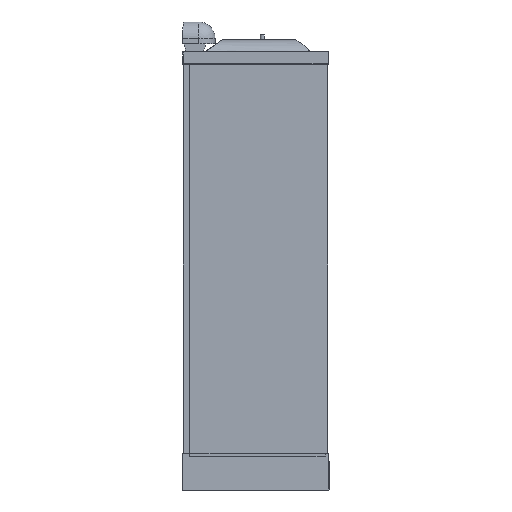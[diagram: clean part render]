
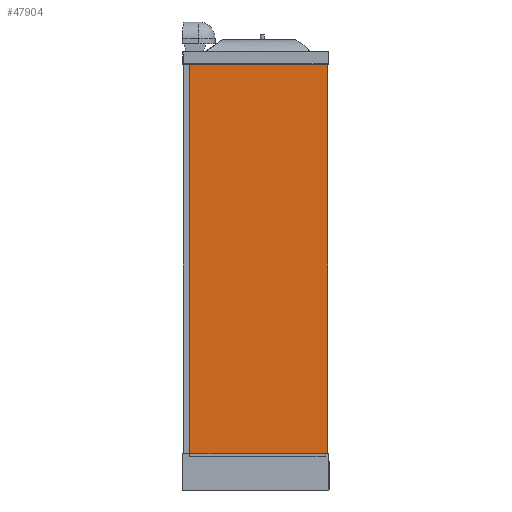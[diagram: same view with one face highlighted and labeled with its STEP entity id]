
A CAD part, left-side view. The second image highlights one B-rep face of the part: STEP entity #47904.
In plain terms, the highlighted planar face has unit normal (-1, 0, 0).
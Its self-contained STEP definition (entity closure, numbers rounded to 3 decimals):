
#47685=CARTESIAN_POINT('',(4.296,-31.426,2063.06));
#47686=VERTEX_POINT('',#47685);
#47693=CARTESIAN_POINT('',(4.296,-686.417,2063.06));
#47694=VERTEX_POINT('',#47693);
#47695=CARTESIAN_POINT('',(4.296,-31.426,2063.06));
#47696=DIRECTION('',(0.0,-1.0,0.0));
#47697=VECTOR('',#47696,654.991);
#47698=LINE('',#47695,#47697);
#47699=EDGE_CURVE('',#47686,#47694,#47698,.T.);
#47817=CARTESIAN_POINT('',(4.296,-686.417,163.06));
#47818=VERTEX_POINT('',#47817);
#47825=CARTESIAN_POINT('',(4.296,-31.426,163.06));
#47826=VERTEX_POINT('',#47825);
#47827=CARTESIAN_POINT('',(4.296,-31.426,163.06));
#47828=DIRECTION('',(0.0,-1.0,0.0));
#47829=VECTOR('',#47828,654.991);
#47830=LINE('',#47827,#47829);
#47831=EDGE_CURVE('',#47826,#47818,#47830,.T.);
#47851=CARTESIAN_POINT('',(4.296,-700.541,162.936));
#47852=DIRECTION('',(1.0,0.0,0.0));
#47853=DIRECTION('',(0.0,1.0,0.0));
#47854=AXIS2_PLACEMENT_3D('',#47851,#47852,#47853);
#47855=PLANE('',#47854);
#47856=ORIENTED_EDGE('',*,*,#47831,.T.);
#47857=CARTESIAN_POINT('',(4.296,-686.417,176.057));
#47858=VERTEX_POINT('',#47857);
#47859=CARTESIAN_POINT('',(4.296,-686.417,163.06));
#47860=DIRECTION('',(0.0,0.0,1.0));
#47861=VECTOR('',#47860,12.998);
#47862=LINE('',#47859,#47861);
#47863=EDGE_CURVE('',#47818,#47858,#47862,.T.);
#47864=ORIENTED_EDGE('',*,*,#47863,.T.);
#47865=CARTESIAN_POINT('',(4.296,-700.417,176.057));
#47866=VERTEX_POINT('',#47865);
#47867=CARTESIAN_POINT('',(4.296,-700.417,176.057));
#47868=DIRECTION('',(0.0,1.0,0.0));
#47869=VECTOR('',#47868,14.);
#47870=LINE('',#47867,#47869);
#47871=EDGE_CURVE('',#47866,#47858,#47870,.T.);
#47872=ORIENTED_EDGE('',*,*,#47871,.F.);
#47873=CARTESIAN_POINT('',(4.296,-700.417,2050.057));
#47874=VERTEX_POINT('',#47873);
#47875=CARTESIAN_POINT('',(4.296,-700.417,2050.057));
#47876=DIRECTION('',(0.0,0.0,-1.0));
#47877=VECTOR('',#47876,1874.0);
#47878=LINE('',#47875,#47877);
#47879=EDGE_CURVE('',#47874,#47866,#47878,.T.);
#47880=ORIENTED_EDGE('',*,*,#47879,.F.);
#47881=CARTESIAN_POINT('',(4.296,-686.417,2050.057));
#47882=VERTEX_POINT('',#47881);
#47883=CARTESIAN_POINT('',(4.296,-700.417,2050.057));
#47884=DIRECTION('',(0.0,1.0,0.0));
#47885=VECTOR('',#47884,14.);
#47886=LINE('',#47883,#47885);
#47887=EDGE_CURVE('',#47874,#47882,#47886,.T.);
#47888=ORIENTED_EDGE('',*,*,#47887,.T.);
#47889=CARTESIAN_POINT('',(4.296,-686.417,2063.06));
#47890=DIRECTION('',(0.0,0.0,-1.0));
#47891=VECTOR('',#47890,13.002);
#47892=LINE('',#47889,#47891);
#47893=EDGE_CURVE('',#47694,#47882,#47892,.T.);
#47894=ORIENTED_EDGE('',*,*,#47893,.F.);
#47895=ORIENTED_EDGE('',*,*,#47699,.F.);
#47896=CARTESIAN_POINT('',(4.296,-31.426,163.06));
#47897=DIRECTION('',(0.0,0.0,1.0));
#47898=VECTOR('',#47897,1900.0);
#47899=LINE('',#47896,#47898);
#47900=EDGE_CURVE('',#47826,#47686,#47899,.T.);
#47901=ORIENTED_EDGE('',*,*,#47900,.F.);
#47902=EDGE_LOOP('',(#47856,#47864,#47872,#47880,#47888,#47894,#47895,#47901));
#47903=FACE_OUTER_BOUND('',#47902,.T.);
#47904=ADVANCED_FACE('',(#47903),#47855,.F.);
